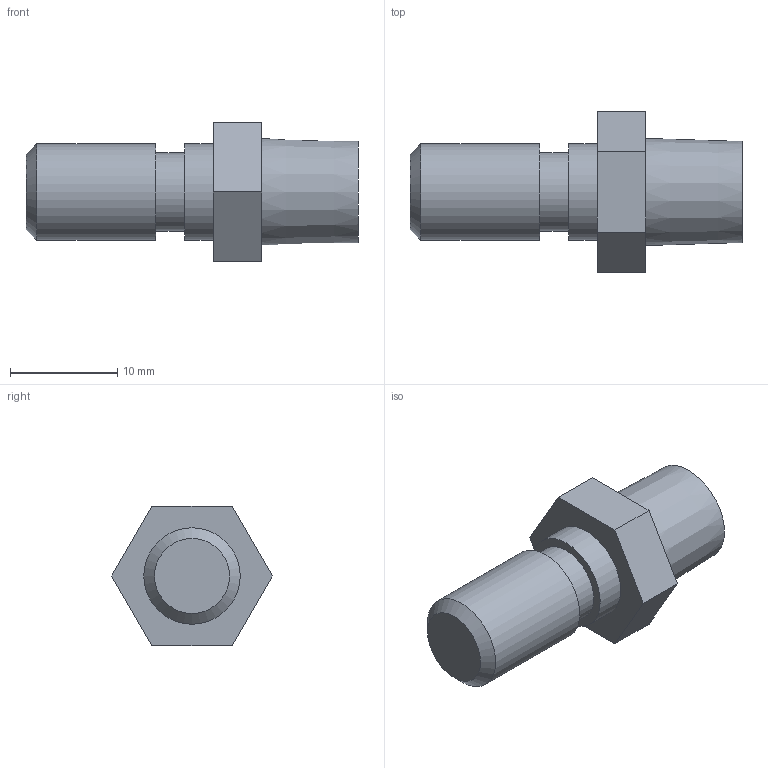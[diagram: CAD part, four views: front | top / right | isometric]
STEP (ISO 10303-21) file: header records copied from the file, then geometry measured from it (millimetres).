
FILE_DESCRIPTION((''),'2;1');
FILE_NAME('Z:\客先\あ行\アオイ\99_その他\3D_DATA\CPR_Series\8CPR-SPV-R\STEP\203\CPR-SPV-R1-8.ipt.stp','2008-07-04T11:08:42',(''),(''),'Autodesk Inventor 2009','Autodesk Inventor 2009','');
FILE_SCHEMA(('CONFIG_CONTROL_DESIGN'));
Length unit declared in the file: millimetre
Products named in the file (1): CPR-SPV-R1-8
Bounding box: 31 x 15.01 x 13 mm (x, y, z)
Volume: 2367.9 mm3; surface area: 1267.7 mm2
Topology: 1 solids, 1 shells, 17 faces, 32 edges, 21 vertices
Faces by surface type: plane 12, cylinder 3, cone 2
Full cylindrical faces by diameter (mm): 7.3 x1, 9 x2
Entity records: 419 total; most frequent: DIRECTION 72, CARTESIAN_POINT 66, ORIENTED_EDGE 54, AXIS2_PLACEMENT_3D 27, EDGE_CURVE 27, EDGE_LOOP 26, VERTEX_POINT 21, VECTOR 18
